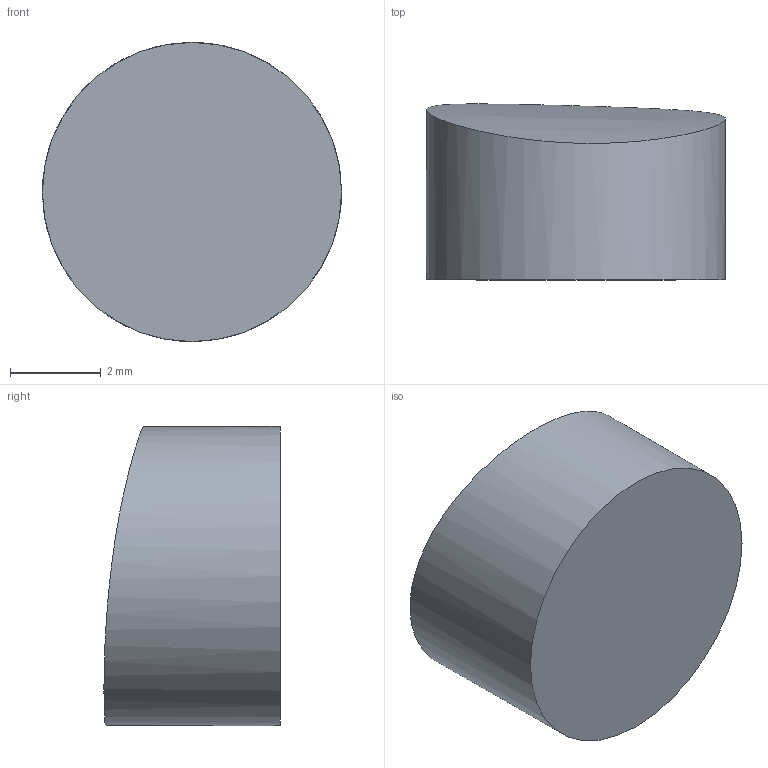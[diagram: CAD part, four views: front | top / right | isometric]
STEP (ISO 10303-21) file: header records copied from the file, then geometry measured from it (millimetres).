
FILE_DESCRIPTION(('Open CASCADE Model'),'2;1');
FILE_NAME('Open CASCADE Shape Model','2026-11-11T21:53:53',('Author'),( 'Open CASCADE'),'Open CASCADE STEP processor 8.0','build123d', 'Unknown');
FILE_SCHEMA(('AUTOMOTIVE_DESIGN { 1 0 10303 214 1 1 1 1 }'));
Length unit declared in the file: millimetre
Products named in the file (1): SOLID
Bounding box: 6.6 x 3.88 x 6.6 mm (x, y, z)
Volume: 123.2 mm3; surface area: 142.1 mm2
Topology: 1 solids, 1 shells, 3 faces, 3 edges, 2 vertices
Faces by surface type: cylinder 1, offset 1, plane 1
Full cylindrical faces by diameter (mm): 6.6 x1
Entity records: 6495 total; most frequent: CARTESIAN_POINT 6412, DIRECTION 13, ORIENTED_EDGE 6, PCURVE 6, DEFINITIONAL_REPRESENTATION 6, AXIS2_PLACEMENT_3D 4, LINE 4, VECTOR 4
